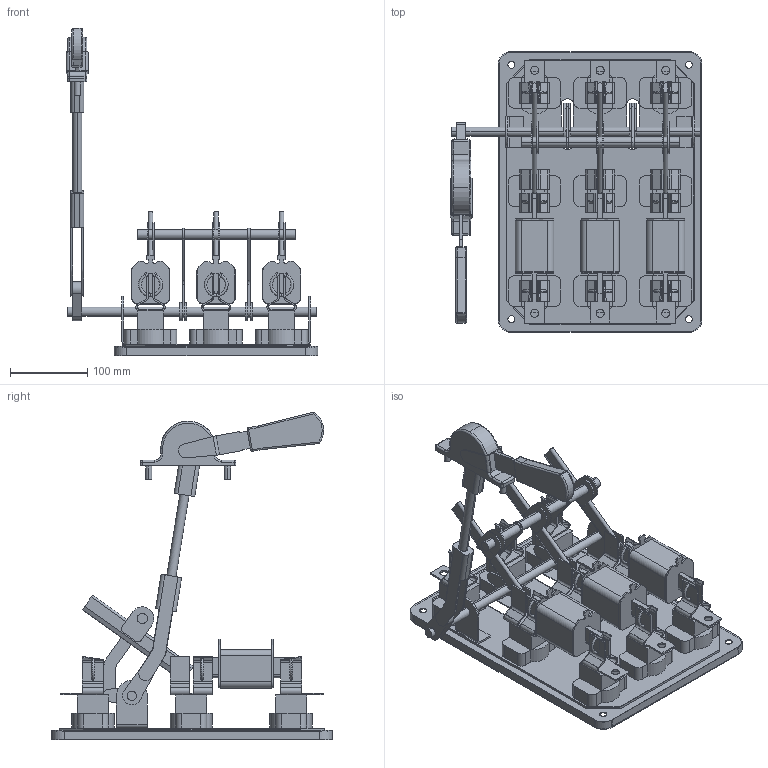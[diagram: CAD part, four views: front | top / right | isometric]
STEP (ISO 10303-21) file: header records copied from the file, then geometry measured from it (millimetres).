
FILE_DESCRIPTION (( 'STEP AP214' ), '1' );
FILE_NAME ('Ðàçúåäèíèòåëü ÐÏÑ-2Ë-250À-ÏÂ250À-ÓÕË3-ÊÝÀÇ.STEP', '2023-05-01T20:14:57', ( '' ), ( '' ), 'SwSTEP 2.0', 'SolidWorks 2018', '' );
FILE_SCHEMA (( 'AUTOMOTIVE_DESIGN' ));
Length unit declared in the file: millimetre
Products named in the file (1): Ðàçúåäèíèòåëü ÐÏÑ-2Ë-250À-ÏÂ250À-ÓÕË3-ÊÝÀÇ
Bounding box: 326.5 x 364 x 424.53 mm (x, y, z)
Volume: 2154549.4 mm3; surface area: 617452.7 mm2
Topology: 12 solids, 12 shells, 1362 faces, 3765 edges, 2443 vertices
Faces by surface type: plane 778, cylinder 486, torus 84, sphere 14
Entity records: 60685 total; most frequent: CARTESIAN_POINT 9917, ORIENTED_EDGE 7514, DIRECTION 7490, EDGE_CURVE 3757, AXIS2_PLACEMENT_3D 2526, VERTEX_POINT 2441, LINE 2438, VECTOR 2438
